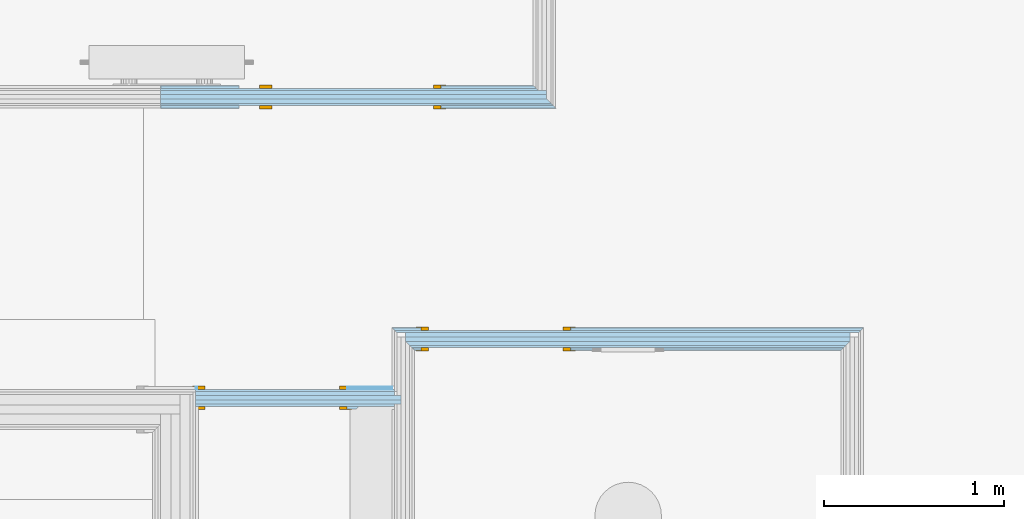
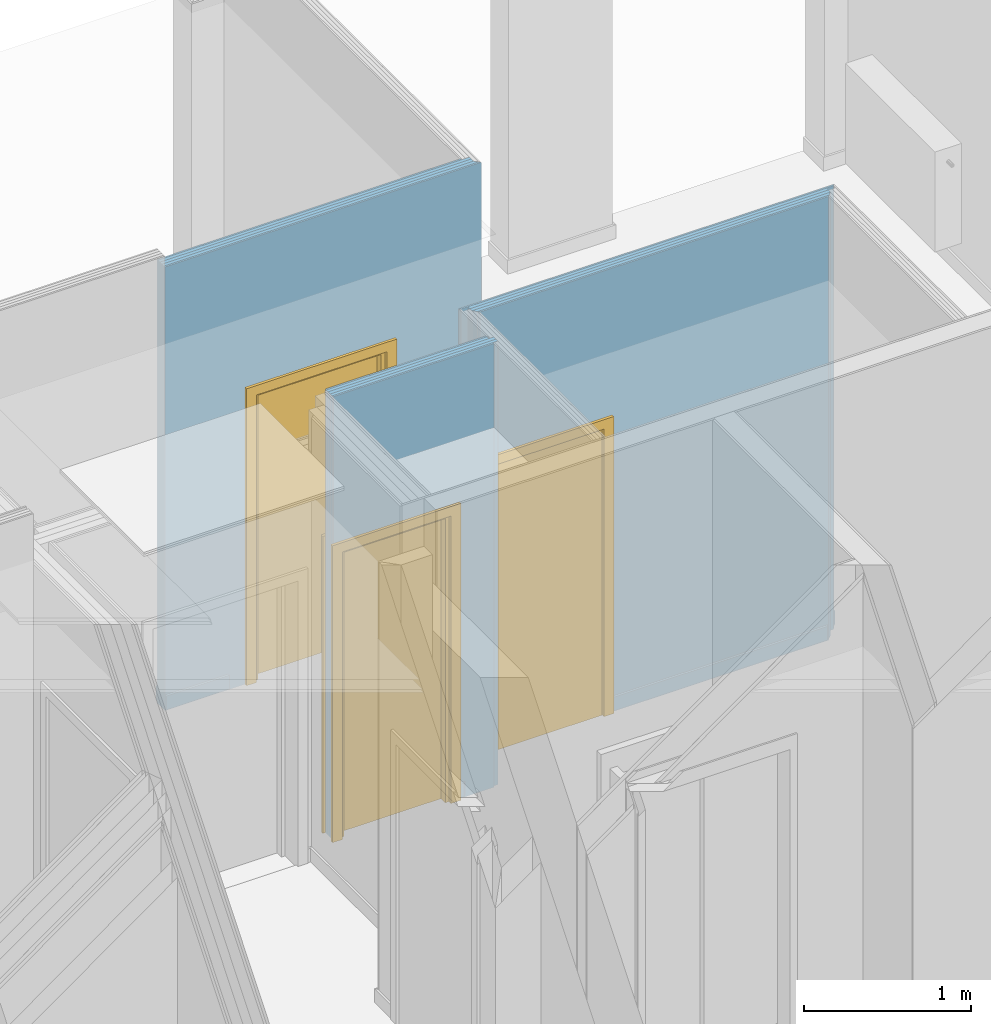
# One storey, part 52 of 65: 3 doors, 3 openings, 3 elements without a shape of their own, plus 21 elements that do not belong to this part.
"""IFC2X3 building model written with IfcOpenShell, lengths in metres."""

from ifc_helpers import new_model, entity, si_unit, converted_unit, derived_unit, money_unit, direction, frame, frame_2d, origin_with_axes, place, context, subcontext, project, spatial, polyline, rectangle, outline, extrude, faceted_brep, material, type_object, element, fill, aggregate, save


model = new_model("IFC2X3")

# Units and contexts
model_context = context("Model", 3, precision=1e-05, world=origin_with_axes(), true_north=direction((0.0, 1.0)))
body_context = subcontext(model_context, "Body", "Model", "MODEL_VIEW", scale=1.0)
ifc_project = project(units=[si_unit("LENGTHUNIT", "METRE"), si_unit("AREAUNIT", "SQUARE_METRE"), si_unit("VOLUMEUNIT", "CUBIC_METRE"), si_unit("ABSORBEDDOSEUNIT", "GRAY"), si_unit("AMOUNTOFSUBSTANCEUNIT", "MOLE"), si_unit("DOSEEQUIVALENTUNIT", "SIEVERT"), si_unit("ELECTRICCAPACITANCEUNIT", "FARAD"), si_unit("ELECTRICCHARGEUNIT", "COULOMB"), si_unit("ELECTRICCONDUCTANCEUNIT", "SIEMENS"), si_unit("ELECTRICCURRENTUNIT", "AMPERE"), si_unit("ELECTRICRESISTANCEUNIT", "OHM"), si_unit("ELECTRICVOLTAGEUNIT", "VOLT"), si_unit("ENERGYUNIT", "JOULE"), si_unit("FORCEUNIT", "NEWTON"), si_unit("FREQUENCYUNIT", "HERTZ"), si_unit("ILLUMINANCEUNIT", "LUX"), si_unit("INDUCTANCEUNIT", "HENRY"), si_unit("LUMINOUSFLUXUNIT", "LUMEN"), si_unit("LUMINOUSINTENSITYUNIT", "CANDELA"), si_unit("MAGNETICFLUXDENSITYUNIT", "TESLA"), si_unit("MAGNETICFLUXUNIT", "WEBER"), si_unit("MASSUNIT", "GRAM"), converted_unit("PLANEANGLEUNIT", "degree", entity("IfcReal", 0.0174532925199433), si_unit("PLANEANGLEUNIT", "RADIAN"), dimensions=[0, 0, 0, 0, 0, 0, 0]), si_unit("POWERUNIT", "WATT"), si_unit("PRESSUREUNIT", "PASCAL"), si_unit("RADIOACTIVITYUNIT", "BECQUEREL"), si_unit("SOLIDANGLEUNIT", "STERADIAN"), si_unit("THERMODYNAMICTEMPERATUREUNIT", "KELVIN"), si_unit("TIMEUNIT", "SECOND"), derived_unit("ACCELERATIONUNIT", [(si_unit("LENGTHUNIT", "METRE"), 1), (si_unit("TIMEUNIT", "SECOND"), -2)]), derived_unit("ANGULARVELOCITYUNIT", [(converted_unit("PLANEANGLEUNIT", "degree", entity("IfcReal", 0.0174532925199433), si_unit("PLANEANGLEUNIT", "RADIAN"), dimensions=[0, 0, 0, 0, 0, 0, 0]), 1), (si_unit("TIMEUNIT", "SECOND"), -1)]), derived_unit("CURVATUREUNIT", [(converted_unit("PLANEANGLEUNIT", "degree", entity("IfcReal", 0.0174532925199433), si_unit("PLANEANGLEUNIT", "RADIAN"), dimensions=[0, 0, 0, 0, 0, 0, 0]), 1), (si_unit("LENGTHUNIT", "METRE"), -1)]), derived_unit("DYNAMICVISCOSITYUNIT", [(si_unit("PRESSUREUNIT", "PASCAL"), 1), (si_unit("TIMEUNIT", "SECOND"), 1)]), derived_unit("HEATFLUXDENSITYUNIT", [(si_unit("POWERUNIT", "WATT"), 1), (si_unit("LENGTHUNIT", "METRE"), -2)]), derived_unit("HEATINGVALUEUNIT", [(si_unit("ENERGYUNIT", "JOULE"), 1), (si_unit("MASSUNIT", "GRAM"), -1)]), derived_unit("INTEGERCOUNTRATEUNIT", [(si_unit("TIMEUNIT", "SECOND"), -1)]), derived_unit("IONCONCENTRATIONUNIT", [(si_unit("MASSUNIT", "GRAM"), 1), (si_unit("VOLUMEUNIT", "CUBIC_METRE"), -1)]), derived_unit("ISOTHERMALMOISTURECAPACITYUNIT", [(si_unit("VOLUMEUNIT", "CUBIC_METRE"), 1), (si_unit("MASSUNIT", "GRAM"), -1)]), derived_unit("KINEMATICVISCOSITYUNIT", [(si_unit("AREAUNIT", "SQUARE_METRE"), 1), (si_unit("TIMEUNIT", "SECOND"), -1)]), derived_unit("LINEARFORCEUNIT", [(si_unit("FORCEUNIT", "NEWTON"), 1), (si_unit("LENGTHUNIT", "METRE"), -1)]), derived_unit("LINEARMOMENTUNIT", [(si_unit("FORCEUNIT", "NEWTON"), 1), (si_unit("LENGTHUNIT", "METRE"), -1)]), derived_unit("LINEARSTIFFNESSUNIT", [(si_unit("FORCEUNIT", "NEWTON"), 1), (si_unit("LENGTHUNIT", "METRE"), -1)]), derived_unit("LINEARVELOCITYUNIT", [(si_unit("LENGTHUNIT", "METRE"), 1), (si_unit("TIMEUNIT", "SECOND"), -1)]), derived_unit("LUMINOUSINTENSITYDISTRIBUTIONUNIT", [(si_unit("LUMINOUSINTENSITYUNIT", "CANDELA"), 1), (si_unit("LUMINOUSFLUXUNIT", "LUMEN"), -1)]), derived_unit("MASSDENSITYUNIT", [(si_unit("MASSUNIT", "GRAM"), 1), (si_unit("VOLUMEUNIT", "CUBIC_METRE"), -1)]), derived_unit("MASSFLOWRATEUNIT", [(si_unit("MASSUNIT", "GRAM"), 1), (si_unit("TIMEUNIT", "SECOND"), -1)]), derived_unit("MASSPERLENGTHUNIT", [(si_unit("MASSUNIT", "GRAM"), 1), (si_unit("LENGTHUNIT", "METRE"), -1)]), derived_unit("MODULUSOFELASTICITYUNIT", [(si_unit("FORCEUNIT", "NEWTON"), 1), (si_unit("AREAUNIT", "SQUARE_METRE"), -1)]), derived_unit("MODULUSOFLINEARSUBGRADEREACTIONUNIT", [(si_unit("FORCEUNIT", "NEWTON"), 1), (si_unit("LENGTHUNIT", "METRE"), -2)]), derived_unit("MODULUSOFROTATIONALSUBGRADEREACTIONUNIT", [(si_unit("FORCEUNIT", "NEWTON"), 1), (si_unit("LENGTHUNIT", "METRE"), 1)]), derived_unit("MODULUSOFSUBGRADEREACTIONUNIT", [(si_unit("FORCEUNIT", "NEWTON"), 1), (si_unit("VOLUMEUNIT", "CUBIC_METRE"), -1)]), derived_unit("MOISTUREDIFFUSIVITYUNIT", [(si_unit("VOLUMEUNIT", "CUBIC_METRE"), 1), (si_unit("TIMEUNIT", "SECOND"), -1)]), derived_unit("MOLECULARWEIGHTUNIT", [(si_unit("MASSUNIT", "GRAM"), 1), (si_unit("AMOUNTOFSUBSTANCEUNIT", "MOLE"), -1)]), derived_unit("PLANARFORCEUNIT", [(si_unit("FORCEUNIT", "NEWTON"), 1), (si_unit("LENGTHUNIT", "METRE"), -2)]), derived_unit("ROTATIONALFREQUENCYUNIT", [(si_unit("TIMEUNIT", "SECOND"), -1)]), derived_unit("ROTATIONALMASSUNIT", [(si_unit("MASSUNIT", "GRAM"), 1), (si_unit("LENGTHUNIT", "METRE"), 2)]), derived_unit("ROTATIONALSTIFFNESSUNIT", [(si_unit("FORCEUNIT", "NEWTON"), 1), (si_unit("LENGTHUNIT", "METRE"), 1), (converted_unit("PLANEANGLEUNIT", "degree", entity("IfcReal", 0.0174532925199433), si_unit("PLANEANGLEUNIT", "RADIAN"), dimensions=[0, 0, 0, 0, 0, 0, 0]), -1)]), derived_unit("SECTIONAREAINTEGRALUNIT", [(si_unit("LENGTHUNIT", "METRE"), 5)]), derived_unit("SECTIONMODULUSUNIT", [(si_unit("LENGTHUNIT", "METRE"), 3)]), derived_unit("SHEARMODULUSUNIT", [(si_unit("FORCEUNIT", "NEWTON"), 1), (si_unit("AREAUNIT", "SQUARE_METRE"), -1)]), derived_unit("SOUNDPOWERUNIT", [(si_unit("ENERGYUNIT", "JOULE"), 1), (si_unit("TIMEUNIT", "SECOND"), -1)]), derived_unit("SPECIFICHEATCAPACITYUNIT", [(si_unit("FORCEUNIT", "NEWTON"), 1), (si_unit("MASSUNIT", "GRAM"), -1), (si_unit("THERMODYNAMICTEMPERATUREUNIT", "KELVIN"), -1)]), derived_unit("TEMPERATUREGRADIENTUNIT", [(si_unit("THERMODYNAMICTEMPERATUREUNIT", "KELVIN"), 1), (si_unit("LENGTHUNIT", "METRE"), -1)]), derived_unit("THERMALADMITTANCEUNIT", [(si_unit("POWERUNIT", "WATT"), 1), (si_unit("AREAUNIT", "SQUARE_METRE"), -1), (si_unit("THERMODYNAMICTEMPERATUREUNIT", "KELVIN"), -1)]), derived_unit("THERMALCONDUCTANCEUNIT", [(si_unit("POWERUNIT", "WATT"), 1), (si_unit("LENGTHUNIT", "METRE"), -1), (si_unit("THERMODYNAMICTEMPERATUREUNIT", "KELVIN"), -1)]), derived_unit("THERMALEXPANSIONCOEFFICIENTUNIT", [(si_unit("THERMODYNAMICTEMPERATUREUNIT", "KELVIN"), -1)]), derived_unit("THERMALRESISTANCEUNIT", [(si_unit("AREAUNIT", "SQUARE_METRE"), 1), (si_unit("POWERUNIT", "WATT"), -1)]), derived_unit("THERMALTRANSMITTANCEUNIT", [(si_unit("POWERUNIT", "WATT"), 1), (si_unit("AREAUNIT", "SQUARE_METRE"), -1), (si_unit("THERMODYNAMICTEMPERATUREUNIT", "KELVIN"), -1)]), derived_unit("TORQUEUNIT", [(si_unit("FORCEUNIT", "NEWTON"), 1), (si_unit("LENGTHUNIT", "METRE"), 1)]), derived_unit("VAPORPERMEABILITYUNIT", [(si_unit("MASSUNIT", "GRAM"), 1), (si_unit("TIMEUNIT", "SECOND"), -1)]), derived_unit("VOLUMETRICFLOWRATEUNIT", [(si_unit("VOLUMEUNIT", "CUBIC_METRE"), 1), (si_unit("TIMEUNIT", "SECOND"), -1)]), derived_unit("WARPINGCONSTANTUNIT", [(si_unit("LENGTHUNIT", "METRE"), 6)]), derived_unit("WARPINGMOMENTUNIT", [(si_unit("FORCEUNIT", "NEWTON"), 1), (si_unit("LENGTHUNIT", "METRE"), 2)]), money_unit("GBP")], contexts=[model_context])

# Site, building, storey, space
site_placement = place(None, origin_with_axes())
site = spatial("IfcSite", under=ifc_project, at=site_placement, Name="Site", CompositionType="ELEMENT")
building_placement = place(site_placement, origin_with_axes())
building = spatial("IfcBuilding", under=site, at=building_placement, Name="Building01", CompositionType="ELEMENT")
storey_placement = place(building_placement, frame((0.0, 0.0, 8.64), z_axis=(0.0, 0.0, 1.0), x_axis=(1.0, 0.0, 0.0)))
storey = spatial("IfcBuildingStorey", under=building, at=storey_placement, Name="2F", CompositionType="ELEMENT", Elevation=8.64)
space_placement = place(storey_placement, frame((7.289669, 14.8, 0.017975), z_axis=(0.0, 0.0, 1.0), x_axis=(0.0, -1.0, 0.0)))
space = spatial("IfcSpace", under=storey, at=space_placement, Name="15", CompositionType="ELEMENT", InteriorOrExteriorSpace="NOTDEFINED")

# Door
ifc_material_1 = material(Name="A_BSUK_Doors")
door_style = type_object("IfcDoorStyle", Name="A-Doors-SingleFlush", ConstructionType="USERDEFINED", OperationType="SINGLE_SWING_RIGHT", ParameterTakesPrecedence=False, Sizeable=False)
wall_3_placement = place(storey_placement, frame((10.428871, 10.052704, 0.0), z_axis=(0.0, 0.0, 1.0), x_axis=(-1.0, 0.0, 0.0)))
opening_3_placement = place(wall_3_placement, frame((0.3, -0.05, 0.0), z_axis=(0.0, 0.0, 1.0), x_axis=(1.0, 0.0, 0.0)))
door_1_placement = place(opening_3_placement, frame((0.792, 0.015, 0.0), z_axis=(0.0, 0.0, 1.0), x_axis=(-1.0, 0.0, 0.0)))
door_1 = element("IfcDoor", 1, at=door_1_placement, inside=space, type_object=door_style, material=ifc_material_1, Name="2.24", ObjectType="A-Doors-SingleFlush", OverallHeight=2.142, OverallWidth=0.834, context=body_context, shape_type="Brep", body=[
    faceted_brep([(0.75, -0.114, 0.0), (0.819, -0.114, 0.0), (0.819, -0.114, 2.169), (-0.069, -0.114, 2.169), (-0.069, -0.114, 0.0), (0.0, -0.114, 0.0), (0.0, -0.114, 2.1), (0.75, -0.114, 2.1), (-0.069, -0.095, 0.0), (-0.069, -0.095, 2.169), (0.819, -0.095, 2.169), (0.819, -0.095, 0.0), (0.75, 0.019, 0.0), (0.819, 0.019, 0.0), (0.819, 0.0, 0.0), (0.792, 0.0, 0.0), (0.792, -0.095, 0.0), (0.75, 0.019, 2.1), (0.0, 0.019, 2.1), (0.0, 0.019, 0.0), (-0.069, 0.019, 0.0), (-0.069, 0.019, 2.169), (0.819, 0.019, 2.169), (0.819, 0.0, 2.169), (0.792, -0.095, 2.142), (0.792, 0.0, 2.142), (-0.042, -0.095, 2.142), (-0.042, 0.0, 2.142), (-0.042, -0.095, 0.0), (-0.042, 0.0, 0.0), (-0.069, 0.0, 2.169), (-0.069, 0.0, 0.0)], [[[0, 1, 2, 3, 4, 5, 6, 7]], [[8, 4, 3, 9]], [[10, 2, 1, 11]], [[9, 3, 2, 10]], [[12, 13, 14, 15, 16, 11, 1, 0]], [[7, 17, 12, 0]], [[6, 18, 17, 7]], [[18, 19, 20, 21, 22, 13, 12, 17]], [[5, 19, 18, 6]], [[13, 22, 23, 14]], [[24, 16, 15, 25]], [[26, 24, 25, 27]], [[11, 16, 24, 26, 28, 8, 9, 10]], [[27, 29, 28, 26]], [[25, 15, 14, 23, 30, 31, 29, 27]], [[5, 4, 8, 28, 29, 31, 20, 19]], [[30, 21, 20, 31]], [[23, 22, 21, 30]]]),
    faceted_brep([(0.0, -0.09, 2.1), (0.0, -0.04, 2.1), (0.0, -0.04, 0.0), (0.0, -0.09, 0.0), (0.725, -0.09, 0.0), (0.75, -0.09, 0.0), (0.75, -0.09, 2.1), (0.025, -0.09, 0.0), (0.025, -0.09, 2.075), (0.725, -0.09, 2.075), (0.725, -0.04, 0.0), (0.75, -0.04, 0.0), (0.75, -0.04, 2.1), (0.025, -0.04, 2.075), (0.025, -0.04, 0.0), (0.725, -0.04, 2.075)], [[[0, 1, 2, 3]], [[4, 5, 6, 0, 3, 7, 8, 9]], [[10, 11, 5, 4]], [[6, 12, 1, 0]], [[5, 11, 12, 6]], [[13, 14, 2, 1, 12, 11, 10, 15]], [[7, 14, 13, 8]], [[7, 3, 2, 14]], [[9, 15, 10, 4]], [[8, 13, 15, 9]]]),
    faceted_brep([(0.75, -0.04, 0.0), (0.75, 0.0, 0.0), (0.75, 0.0, 2.1), (0.75, -0.04, 2.1), (0.0, -0.04, 2.1), (0.0, 0.0, 2.1), (0.0, 0.0, 0.0), (0.0, -0.04, 0.0)], [[[0, 1, 2, 3]], [[4, 5, 6, 7]], [[7, 6, 1, 0]], [[3, 4, 7, 0]], [[3, 2, 5, 4]], [[1, 6, 5, 2]]]),
])

wall_1_placement = place(storey_placement, frame((10.453871, 10.355, 0.0), z_axis=(0.0, 0.0, 1.0), x_axis=(1.0, 0.0, 0.0)))
opening_1_placement = place(wall_1_placement, frame((0.086065, -0.05, 0.0), z_axis=(0.0, 0.0, 1.0), x_axis=(1.0, 0.0, 0.0)))
door_2_placement = place(opening_1_placement, frame((0.792, 0.015, 0.0), z_axis=(0.0, 0.0, 1.0), x_axis=(-1.0, 0.0, 0.0)))
door_2 = element("IfcDoor", 2, at=door_2_placement, inside=space, type_object=door_style, material=ifc_material_1, Name="2.26", ObjectType="A-Doors-SingleFlush", OverallHeight=2.142, OverallWidth=0.834, context=body_context, shape_type="Brep", body=[
    faceted_brep([(0.75, -0.114, 0.0), (0.819, -0.114, 0.0), (0.819, -0.114, 2.169), (-0.069, -0.114, 2.169), (-0.069, -0.114, 0.0), (0.0, -0.114, 0.0), (0.0, -0.114, 2.1), (0.75, -0.114, 2.1), (-0.069, -0.095, 0.0), (-0.069, -0.095, 2.169), (0.819, -0.095, 2.169), (0.819, -0.095, 0.0), (0.75, 0.019, 0.0), (0.819, 0.019, 0.0), (0.819, 0.0, 0.0), (0.792, 0.0, 0.0), (0.792, -0.095, 0.0), (0.75, 0.019, 2.1), (0.0, 0.019, 2.1), (0.0, 0.019, 0.0), (-0.069, 0.019, 0.0), (-0.069, 0.019, 2.169), (0.819, 0.019, 2.169), (0.819, 0.0, 2.169), (0.792, -0.095, 2.142), (0.792, 0.0, 2.142), (-0.042, -0.095, 2.142), (-0.042, 0.0, 2.142), (-0.042, -0.095, 0.0), (-0.042, 0.0, 0.0), (-0.069, 0.0, 2.169), (-0.069, 0.0, 0.0)], [[[0, 1, 2, 3, 4, 5, 6, 7]], [[8, 4, 3, 9]], [[10, 2, 1, 11]], [[9, 3, 2, 10]], [[12, 13, 14, 15, 16, 11, 1, 0]], [[7, 17, 12, 0]], [[6, 18, 17, 7]], [[18, 19, 20, 21, 22, 13, 12, 17]], [[5, 19, 18, 6]], [[13, 22, 23, 14]], [[24, 16, 15, 25]], [[26, 24, 25, 27]], [[11, 16, 24, 26, 28, 8, 9, 10]], [[27, 29, 28, 26]], [[25, 15, 14, 23, 30, 31, 29, 27]], [[5, 4, 8, 28, 29, 31, 20, 19]], [[30, 21, 20, 31]], [[23, 22, 21, 30]]]),
    faceted_brep([(0.0, -0.09, 2.1), (0.0, -0.04, 2.1), (0.0, -0.04, 0.0), (0.0, -0.09, 0.0), (0.725, -0.09, 0.0), (0.75, -0.09, 0.0), (0.75, -0.09, 2.1), (0.025, -0.09, 0.0), (0.025, -0.09, 2.075), (0.725, -0.09, 2.075), (0.725, -0.04, 0.0), (0.75, -0.04, 0.0), (0.75, -0.04, 2.1), (0.025, -0.04, 2.075), (0.025, -0.04, 0.0), (0.725, -0.04, 2.075)], [[[0, 1, 2, 3]], [[4, 5, 6, 0, 3, 7, 8, 9]], [[10, 11, 5, 4]], [[6, 12, 1, 0]], [[5, 11, 12, 6]], [[13, 14, 2, 1, 12, 11, 10, 15]], [[7, 14, 13, 8]], [[7, 3, 2, 14]], [[9, 15, 10, 4]], [[8, 13, 15, 9]]]),
    faceted_brep([(0.75, -0.04, 0.0), (0.75, 0.0, 0.0), (0.75, 0.0, 2.1), (0.75, -0.04, 2.1), (0.0, -0.04, 2.1), (0.0, 0.0, 2.1), (0.0, 0.0, 0.0), (0.0, -0.04, 0.0)], [[[0, 1, 2, 3]], [[4, 5, 6, 7]], [[7, 6, 1, 0]], [[3, 4, 7, 0]], [[3, 2, 5, 4]], [[1, 6, 5, 2]]]),
])

wall_2_placement = place(storey_placement, frame((9.09, 11.703124, 0.0), z_axis=(0.0, 0.0, 1.0), x_axis=(1.0, 0.0, 0.0)))
opening_2_placement = place(wall_2_placement, frame((0.579, -0.05, -0.015), z_axis=(0.0, 0.0, 1.0), x_axis=(1.0, 0.0, 0.0)))
door_3_placement = place(opening_2_placement, frame((0.042, 0.11, 0.015), z_axis=(0.0, 0.0, 1.0), x_axis=(1.0, 0.0, 0.0)))
door_3 = element("IfcDoor", 3, at=door_3_placement, inside=space, type_object=door_style, material=ifc_material_1, Name="2.25", ObjectType="A-Doors-SingleFlush", OverallHeight=2.142, OverallWidth=1.127117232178, context=body_context, shape_type="Brep", body=[
    faceted_brep([(0.9, -0.114, 0.0), (0.969, -0.114, 0.0), (0.969, -0.114, 2.169), (-0.069, -0.114, 2.169), (-0.069, -0.114, 0.0), (0.0, -0.114, 0.0), (0.0, -0.114, 2.1), (0.9, -0.114, 2.1), (-0.069, -0.095, 0.0), (-0.069, -0.095, 2.169), (0.969, -0.095, 2.169), (0.969, -0.095, 0.0), (0.9, 0.019, 0.0), (0.969, 0.019, 0.0), (0.969, 0.0, 0.0), (0.942, 0.0, 0.0), (0.942, -0.095, 0.0), (0.9, 0.019, 2.1), (0.0, 0.019, 2.1), (0.0, 0.019, 0.0), (-0.069, 0.019, 0.0), (-0.069, 0.019, 2.169), (0.969, 0.019, 2.169), (0.969, 0.0, 2.169), (0.942, -0.095, 2.142), (0.942, 0.0, 2.142), (-0.042, -0.095, 2.142), (-0.042, 0.0, 2.142), (-0.042, -0.095, 0.0), (-0.042, 0.0, 0.0), (-0.069, 0.0, 2.169), (-0.069, 0.0, 0.0)], [[[0, 1, 2, 3, 4, 5, 6, 7]], [[8, 4, 3, 9]], [[10, 2, 1, 11]], [[9, 3, 2, 10]], [[12, 13, 14, 15, 16, 11, 1, 0]], [[7, 17, 12, 0]], [[6, 18, 17, 7]], [[18, 19, 20, 21, 22, 13, 12, 17]], [[5, 19, 18, 6]], [[13, 22, 23, 14]], [[24, 16, 15, 25]], [[26, 24, 25, 27]], [[11, 16, 24, 26, 28, 8, 9, 10]], [[27, 29, 28, 26]], [[25, 15, 14, 23, 30, 31, 29, 27]], [[5, 4, 8, 28, 29, 31, 20, 19]], [[30, 21, 20, 31]], [[23, 22, 21, 30]]]),
    faceted_brep([(0.0, -0.09, 2.1), (0.0, -0.04, 2.1), (0.0, -0.04, 0.0), (0.0, -0.09, 0.0), (0.875, -0.09, 0.0), (0.9, -0.09, 0.0), (0.9, -0.09, 2.1), (0.025, -0.09, 0.0), (0.025, -0.09, 2.075), (0.875, -0.09, 2.075), (0.875, -0.04, 0.0), (0.9, -0.04, 0.0), (0.9, -0.04, 2.1), (0.025, -0.04, 2.075), (0.025, -0.04, 0.0), (0.875, -0.04, 2.075)], [[[0, 1, 2, 3]], [[4, 5, 6, 0, 3, 7, 8, 9]], [[10, 11, 5, 4]], [[6, 12, 1, 0]], [[5, 11, 12, 6]], [[13, 14, 2, 1, 12, 11, 10, 15]], [[7, 14, 13, 8]], [[7, 3, 2, 14]], [[9, 15, 10, 4]], [[8, 13, 15, 9]]]),
    faceted_brep([(0.9, -0.04, 0.0), (0.9, 0.0, 0.0), (0.9, 0.0, 2.1), (0.9, -0.04, 2.1), (0.0, -0.04, 2.1), (0.0, 0.0, 2.1), (0.0, 0.0, 0.0), (0.0, -0.04, 0.0)], [[[0, 1, 2, 3]], [[4, 5, 6, 7]], [[7, 6, 1, 0]], [[3, 4, 7, 0]], [[3, 2, 5, 4]], [[1, 6, 5, 2]]]),
])

# Wall, opening
wall_type = type_object("IfcWallType", Name="SHE_A-Walls_Type05a_Partition_95mm_tall", PredefinedType="NOTDEFINED")
wall_1 = element("IfcWall", 4, at=wall_1_placement, inside=storey, type_object=wall_type, Name="5A", ObjectType="SHE_A-Walls_Type05a_Partition_95mm_tall")
opening_1 = element("IfcOpeningElement", 5, at=opening_1_placement, cuts=wall_1, Name="Opening", ObjectType="Opening", context=body_context, shape_type="SweptSolid", body=[
    extrude(rectangle(XDim=0.834, YDim=2.142, at=frame_2d((-0.417, 1.071), x_axis=(1.0, 0.0))), frame((0.0, 0.0, 0.0), z_axis=(0.0, 1.0, 0.0), x_axis=(-1.0, 0.0, 0.0)), (0.0, 0.0, 1.0), 0.125),
])

fill(opening_1, door_2)

# Building element part
ifc_material_2 = material(Name="A_BSUK_Walls_Timber")
placement_1 = place(wall_1_placement, origin_with_axes())
building_element_part_1 = element("IfcBuildingElementPart", 6, at=placement_1, material=ifc_material_2, Name="1", context=body_context, shape_type="SweptSolid", body=[
    extrude(outline(polyline([(2.439714, -0.035), (0.035, -0.035), (0.05, -0.05), (2.424714, -0.05), (2.439714, -0.035)])), frame((0.0, 0.0, 0.015), z_axis=(0.0, 0.0, 1.0), x_axis=(1.0, 0.0, 0.0)), (0.0, 0.0, 1.0), 0.1),
])

ifc_material_3 = material(Name="A_BSUK_WallInternal_Finishes_Plasterboard")
building_element_part_2 = element("IfcBuildingElementPart", 7, at=placement_1, material=ifc_material_3, Name="2", context=body_context, shape_type="SweptSolid", body=[
    extrude(outline(polyline([(2.451714, -0.023), (0.023, -0.023), (0.035, -0.035), (2.439714, -0.035), (2.451714, -0.023)])), origin_with_axes(), (0.0, 0.0, 1.0), 3.24),
])

ifc_material_4 = material(Name="Air Cavity")
building_element_part_3 = element("IfcBuildingElementPart", 8, at=placement_1, material=ifc_material_4, Name="3", context=body_context, shape_type="SweptSolid", body=[
    extrude(outline(polyline([(2.474714, 0.0), (0.0, 0.0), (0.023, -0.023), (2.451714, -0.023), (2.474714, 0.0)])), origin_with_axes(), (0.0, 0.0, 1.0), 3.24),
])

ifc_material_5 = material(Name="A_BSUK_Insulation")
building_element_part_4 = element("IfcBuildingElementPart", 9, at=placement_1, material=ifc_material_5, Name="4", context=body_context, shape_type="SweptSolid", body=[
    extrude(rectangle(XDim=2.474714, YDim=0.025, at=frame_2d((1.237357, 0.0125), x_axis=(-1.0, 0.0))), origin_with_axes(), (0.0, 0.0, 1.0), 3.24),
])

building_element_part_5 = element("IfcBuildingElementPart", 10, at=placement_1, material=ifc_material_4, Name="5", context=body_context, shape_type="SweptSolid", body=[
    extrude(rectangle(XDim=2.474714, YDim=0.023, at=frame_2d((1.237357, 0.0365), x_axis=(-1.0, 0.0))), origin_with_axes(), (0.0, 0.0, 1.0), 3.24),
])

building_element_part_6 = element("IfcBuildingElementPart", 11, at=placement_1, material=ifc_material_3, Name="6", context=body_context, shape_type="SweptSolid", body=[
    extrude(outline(polyline([(2.534714, 0.06), (-0.06, 0.06), (-0.048, 0.048), (2.522714, 0.048), (2.534714, 0.06)])), origin_with_axes(), (0.0, 0.0, 1.0), 3.24),
])

building_element_part_7 = element("IfcBuildingElementPart", 12, at=placement_1, material=ifc_material_2, Name="7", context=body_context, shape_type="SweptSolid", body=[
    extrude(outline(polyline([(2.549714, 0.075), (-0.075, 0.075), (-0.06, 0.06), (2.534714, 0.06), (2.549714, 0.075)])), frame((0.0, 0.0, 0.015), z_axis=(0.0, 0.0, 1.0), x_axis=(1.0, 0.0, 0.0)), (0.0, 0.0, 1.0), 0.1),
])

aggregate(wall_1, [building_element_part_1, building_element_part_2, building_element_part_3, building_element_part_4, building_element_part_5, building_element_part_6, building_element_part_7])

# Wall, opening
wall_2 = element("IfcWall", 13, at=wall_2_placement, inside=storey, type_object=wall_type, Name="5A", ObjectType="SHE_A-Walls_Type05a_Partition_95mm_tall")
opening_2 = element("IfcOpeningElement", 14, at=opening_2_placement, cuts=wall_2, Name="Opening", ObjectType="Opening", context=body_context, shape_type="SweptSolid", body=[
    extrude(outline(polyline([(-0.042, 0.0), (-0.042, 0.015), (0.0, 0.015), (0.0, 2.157), (-0.984, 2.157), (-0.984, 0.015), (-0.840883, 0.015), (-0.840883, 0.0), (-0.042, 0.0)])), frame((0.0, 0.0, 0.0), z_axis=(0.0, 1.0, 0.0), x_axis=(-1.0, 0.0, 0.0)), (0.0, 0.0, 1.0), 0.125),
    extrude(outline(polyline([(-0.942, 0.015), (-0.942, 0.0), (-0.042, 0.0), (-0.042, 0.015), (0.0, 0.015), (0.0, 2.157), (-0.984, 2.157), (-0.984, 0.015), (-0.942, 0.015)])), frame((0.0, 0.015, 0.0), z_axis=(0.0, 1.0, 0.0), x_axis=(-1.0, 0.0, 0.0)), (0.0, 0.0, 1.0), 0.012),
    extrude(outline(polyline([(0.0, 2.142), (0.0, 2.157), (-0.984, 2.157), (-0.984, 0.015), (-0.840883, 0.015), (-0.840883, 0.0), (0.143117, 0.0), (0.143117, 2.142), (0.0, 2.142)])), frame((0.0, 0.0, 0.0), z_axis=(0.0, 1.0, 0.0), x_axis=(-1.0, 0.0, 0.0)), (0.0, 0.0, 1.0), 0.015),
    extrude(outline(polyline([(-0.942, 0.015), (-0.942, 0.0), (-0.042, 0.0), (-0.042, 0.015), (0.0, 0.015), (0.0, 2.157), (-0.984, 2.157), (-0.984, 0.015), (-0.942, 0.015)])), frame((0.0, 0.027, 0.0), z_axis=(0.0, 1.0, 0.0), x_axis=(-1.0, 0.0, 0.0)), (0.0, 0.0, 1.0), 0.023),
    extrude(outline(polyline([(-0.942, 0.015), (-0.942, 0.0), (-0.042, 0.0), (-0.042, 0.015), (0.0, 0.015), (0.0, 2.157), (-0.984, 2.157), (-0.984, 0.015), (-0.942, 0.015)])), frame((0.0, 0.05, 0.0), z_axis=(0.0, 1.0, 0.0), x_axis=(-1.0, 0.0, 0.0)), (0.0, 0.0, 1.0), 0.025),
    extrude(outline(polyline([(-0.942, 0.015), (-0.942, 0.0), (-0.042, 0.0), (-0.042, 0.015), (0.0, 0.015), (0.0, 2.157), (-0.984, 2.157), (-0.984, 0.015), (-0.942, 0.015)])), frame((0.0, 0.075, 0.0), z_axis=(0.0, 1.0, 0.0), x_axis=(-1.0, 0.0, 0.0)), (0.0, 0.0, 1.0), 0.023),
    extrude(outline(polyline([(-0.942, 0.015), (-0.942, 0.0), (-0.042, 0.0), (-0.042, 0.015), (0.0, 0.015), (0.0, 2.157), (-0.984, 2.157), (-0.984, 0.015), (-0.942, 0.015)])), frame((0.0, 0.098, 0.0), z_axis=(0.0, 1.0, 0.0), x_axis=(-1.0, 0.0, 0.0)), (0.0, 0.0, 1.0), 0.012),
    extrude(outline(polyline([(-0.840883, 0.015), (-0.840883, 0.0), (0.143117, 0.0), (0.143117, 2.142), (0.0, 2.142), (0.0, 2.157), (-0.984, 2.157), (-0.984, 0.015), (-0.840883, 0.015)])), frame((0.0, 0.11, 0.0), z_axis=(0.0, 1.0, 0.0), x_axis=(-1.0, 0.0, 0.0)), (0.0, 0.0, 1.0), 0.015),
])

fill(opening_2, door_3)

# Building element part
placement_2 = place(wall_2_placement, origin_with_axes())
building_element_part_8 = element("IfcBuildingElementPart", 15, at=placement_2, material=ifc_material_2, Name="1", context=body_context, shape_type="SweptSolid", body=[
    extrude(outline(polyline([(2.185, -0.035), (0.0, -0.035), (0.0, -0.05), (2.2, -0.05), (2.185, -0.035)])), frame((0.0, 0.0, 0.015), z_axis=(0.0, 0.0, 1.0), x_axis=(1.0, 0.0, 0.0)), (0.0, 0.0, 1.0), 0.1),
])

building_element_part_9 = element("IfcBuildingElementPart", 16, at=placement_2, material=ifc_material_3, Name="2", context=body_context, shape_type="SweptSolid", body=[
    extrude(outline(polyline([(2.173, -0.023), (0.0, -0.023), (0.0, -0.035), (2.185, -0.035), (2.173, -0.023)])), origin_with_axes(), (0.0, 0.0, 1.0), 3.24),
])

building_element_part_10 = element("IfcBuildingElementPart", 17, at=placement_2, material=ifc_material_4, Name="3", context=body_context, shape_type="SweptSolid", body=[
    extrude(outline(polyline([(2.15, 0.0), (0.0, 0.0), (0.0, -0.023), (2.173, -0.023), (2.15, 0.0)])), origin_with_axes(), (0.0, 0.0, 1.0), 3.24),
])

building_element_part_11 = element("IfcBuildingElementPart", 18, at=placement_2, material=ifc_material_5, Name="4", context=body_context, shape_type="SweptSolid", body=[
    extrude(rectangle(XDim=2.15, YDim=0.025, at=frame_2d((1.075, 0.0125), x_axis=(-1.0, 0.0))), origin_with_axes(), (0.0, 0.0, 1.0), 3.24),
])

building_element_part_12 = element("IfcBuildingElementPart", 19, at=placement_2, material=ifc_material_4, Name="5", context=body_context, shape_type="SweptSolid", body=[
    extrude(rectangle(XDim=2.15, YDim=0.023, at=frame_2d((1.075, 0.0365), x_axis=(-1.0, 0.0))), origin_with_axes(), (0.0, 0.0, 1.0), 3.24),
])

building_element_part_13 = element("IfcBuildingElementPart", 20, at=placement_2, material=ifc_material_3, Name="6", context=body_context, shape_type="SweptSolid", body=[
    extrude(outline(polyline([(2.09, 0.06), (0.0, 0.06), (0.0, 0.048), (2.102, 0.048), (2.09, 0.06)])), origin_with_axes(), (0.0, 0.0, 1.0), 3.24),
])

building_element_part_14 = element("IfcBuildingElementPart", 21, at=placement_2, material=ifc_material_2, Name="7", context=body_context, shape_type="SweptSolid", body=[
    extrude(outline(polyline([(2.075, 0.075), (0.0, 0.075), (0.0, 0.06), (2.09, 0.06), (2.075, 0.075)])), frame((0.0, 0.0, 0.015), z_axis=(0.0, 0.0, 1.0), x_axis=(1.0, 0.0, 0.0)), (0.0, 0.0, 1.0), 0.1),
])

aggregate(wall_2, [building_element_part_8, building_element_part_9, building_element_part_10, building_element_part_11, building_element_part_12, building_element_part_13, building_element_part_14])

# Wall, opening
wall_3 = element("IfcWall", 22, at=wall_3_placement, inside=storey, type_object=wall_type, Name="5A", ObjectType="SHE_A-Walls_Type05a_Partition_95mm_tall")
opening_3 = element("IfcOpeningElement", 23, at=opening_3_placement, cuts=wall_3, Name="Opening", ObjectType="Opening", context=body_context, shape_type="SweptSolid", body=[
    extrude(rectangle(XDim=0.834, YDim=2.142, at=frame_2d((-0.417, 1.071), x_axis=(1.0, 0.0))), frame((0.0, 0.0, 0.0), z_axis=(0.0, 1.0, 0.0), x_axis=(-1.0, 0.0, 0.0)), (0.0, 0.0, 1.0), 0.125),
])

fill(opening_3, door_1)

# Building element part
placement_3 = place(wall_3_placement, origin_with_axes())
building_element_part_15 = element("IfcBuildingElementPart", 24, at=placement_3, material=ifc_material_2, Name="1", context=body_context, shape_type="SweptSolid", body=[
    extrude(rectangle(XDim=0.015, YDim=1.093871, at=frame_2d((0.596935, -0.0425), x_axis=(0.0, -1.0))), frame((0.0, 0.0, 0.015), z_axis=(0.0, 0.0, 1.0), x_axis=(1.0, 0.0, 0.0)), (0.0, 0.0, 1.0), 0.1),
])

building_element_part_16 = element("IfcBuildingElementPart", 25, at=placement_3, material=ifc_material_3, Name="2", context=body_context, shape_type="SweptSolid", body=[
    extrude(rectangle(XDim=1.108871, YDim=0.012, at=frame_2d((0.589435, -0.029), x_axis=(-1.0, 0.0))), origin_with_axes(), (0.0, 0.0, 1.0), 3.24),
])

building_element_part_17 = element("IfcBuildingElementPart", 26, at=placement_3, material=ifc_material_4, Name="3", context=body_context, shape_type="SweptSolid", body=[
    extrude(rectangle(XDim=1.108871, YDim=0.023, at=frame_2d((0.589435, -0.0115), x_axis=(-1.0, 0.0))), origin_with_axes(), (0.0, 0.0, 1.0), 3.24),
])

building_element_part_18 = element("IfcBuildingElementPart", 27, at=placement_3, material=ifc_material_5, Name="4", context=body_context, shape_type="SweptSolid", body=[
    extrude(rectangle(XDim=1.143871, YDim=0.025, at=frame_2d((0.571935, 0.0125), x_axis=(-1.0, 0.0))), origin_with_axes(), (0.0, 0.0, 1.0), 3.24),
])

building_element_part_19 = element("IfcBuildingElementPart", 28, at=placement_3, material=ifc_material_4, Name="5", context=body_context, shape_type="SweptSolid", body=[
    extrude(rectangle(XDim=1.143871, YDim=0.023, at=frame_2d((0.571935, 0.0365), x_axis=(-1.0, 0.0))), origin_with_axes(), (0.0, 0.0, 1.0), 3.24),
])

building_element_part_20 = element("IfcBuildingElementPart", 29, at=placement_3, material=ifc_material_3, Name="6", context=body_context, shape_type="SweptSolid", body=[
    extrude(rectangle(XDim=1.108871, YDim=0.012, at=frame_2d((0.589435, 0.054), x_axis=(-1.0, 0.0))), origin_with_axes(), (0.0, 0.0, 1.0), 3.24),
])

building_element_part_21 = element("IfcBuildingElementPart", 30, at=placement_3, material=ifc_material_2, Name="7", context=body_context, shape_type="SweptSolid", body=[
    extrude(outline(polyline([(1.128871, 0.075), (0.25, 0.075), (0.235, 0.06), (1.128871, 0.06), (1.128871, 0.075)])), frame((0.0, 0.0, 0.015), z_axis=(0.0, 0.0, 1.0), x_axis=(1.0, 0.0, 0.0)), (0.0, 0.0, 1.0), 0.1),
])

aggregate(wall_3, [building_element_part_15, building_element_part_16, building_element_part_17, building_element_part_18, building_element_part_19, building_element_part_20, building_element_part_21])

save(model, "model.ifc")
